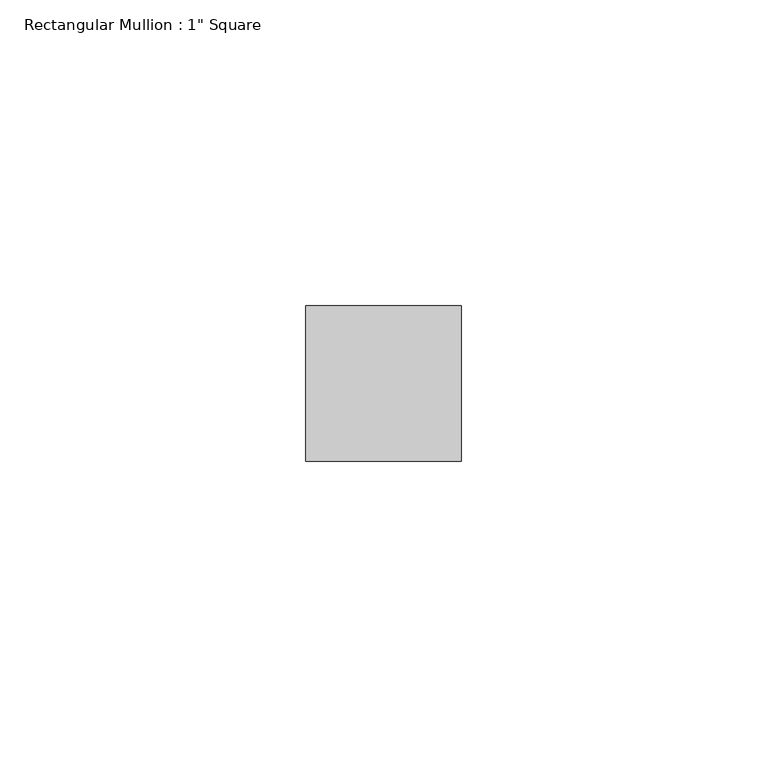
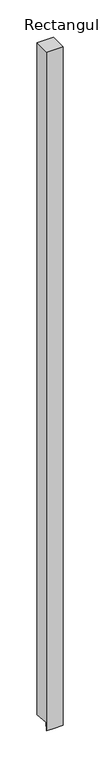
"""IFC4 building model written with IfcOpenShell, lengths in millimetres: member geometry."""

from ifc_helpers import new_model, si_unit, origin, place, context, project, spatial, faceted_brep, source, transform, mapped, element, save


def member_14e241b9(model_context):
    return source(origin(), model_context, "Body", "Brep", [
        faceted_brep([(12.7, 12.7, 0.0), (-12.7, 12.7, 0.0), (-12.7, -12.7, 0.0), (12.7, -12.7, 0.0), (12.7, 12.7, -1101.9503723), (0.0, 12.7, -1101.9503723), (-12.7, 12.7, -1101.9503723), (-12.7, -11.2061787, -1099.2705575), (-12.7, -12.7, -1112.5966871), (0.0, -12.7, -1112.5966871), (12.7, -12.7, -1112.5966871), (12.7, -11.2061787, -1099.2705575), (0.0, -11.2061787, -1099.2705575)], [[[0, 1, 2, 3]], [[1, 0, 4, 5, 6]], [[2, 1, 6, 7, 8]], [[3, 2, 8, 9, 10]], [[0, 3, 10, 11, 4]], [[4, 11, 12, 5]], [[11, 10, 9, 12]], [[9, 8, 7, 12]], [[7, 6, 5, 12]]]),
    ])


if __name__ == "__main__":
    model = new_model("IFC4")
    model_context = context("Model", 3, world=origin())
    ifc_project = project(units=[si_unit("LENGTHUNIT", "METRE", prefix="MILLI")], contexts=[model_context])
    site = spatial("IfcSite", under=ifc_project)
    building = spatial("IfcBuilding", under=site)
    placement = place(None, origin())
    member_shape = member_14e241b9(model_context)
    element("IfcMember", 1, ObjectType="Rectangular Mullion : 1\" Square", at=placement, inside=building, context=model_context, shape_type="MappedRepresentation", body=[
        mapped(member_shape, transform((0.0, 0.0, 0.0), x_axis=(1.0, 0.0, 0.0), y_axis=(0.0, 1.0, 0.0), z_axis=(0.0, 0.0, 1.0))),
    ])
    save(model, "model.ifc")
